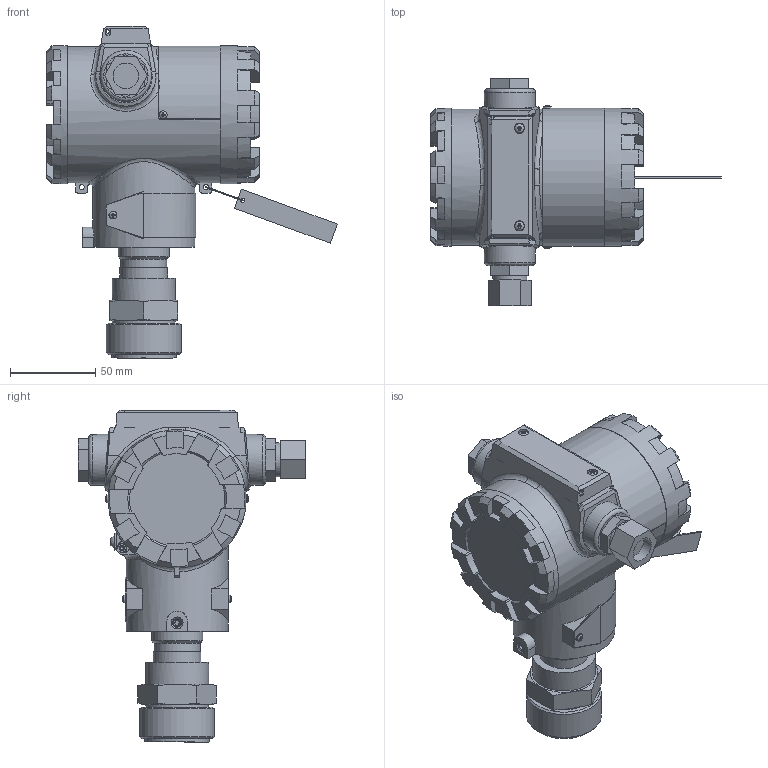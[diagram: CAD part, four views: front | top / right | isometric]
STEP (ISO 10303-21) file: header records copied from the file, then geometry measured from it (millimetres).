
FILE_DESCRIPTION(('STEP AP203'), '1');
FILE_NAME('Èçáûòî÷íîå äàâëåíèå - ÝÌÈÑ-ÁÀÐ 113 (ðåçüáà Ì44)', '', ('UNSPECIFIED'), ('UNSPECIFIED'), 'C3D Converter', 'C3D Toolkit', '');
FILE_SCHEMA(('CONFIG_CONTROL_DESIGN'));
Length unit declared in the file: millimetre
Bounding box: 170.73 x 133.5 x 195.17 mm (x, y, z)
Volume: 298490.4 mm3; surface area: 141993.8 mm2
Topology: 13 solids, 14 shells, 870 faces, 2283 edges, 1484 vertices
Faces by surface type: plane 503, cylinder 193, cone 90, bspline 68, torus 8, sphere 7, extrusion 1
Full cylindrical faces by diameter (mm): 1 x1, 1.6 x4, 2 x4, 2.5 x7, 2.8 x1, 3 x7, 3.165 x4, 3.8 x3, 4 x7, 4.5 x4, 5 x2, 5.5 x2, 6 x2, 10 x1, 15 x1, 20 x2, 27 x1, 28 x1, 30 x5, 37 x2, 38 x1, 44 x1, 55 x1, 58 x2, 60 x1, 66.3 x2, 71.8 x2, 75 x2, 81 x1, 81.2 x1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
Entity records: 44813 total; most frequent: CARTESIAN_POINT 17163, ORIENTED_EDGE 4301, DIRECTION 4068, EDGE_CURVE 2157, VERTEX_POINT 1474, AXIS2_PLACEMENT_3D 1467, VECTOR 1134, LINE 1133
